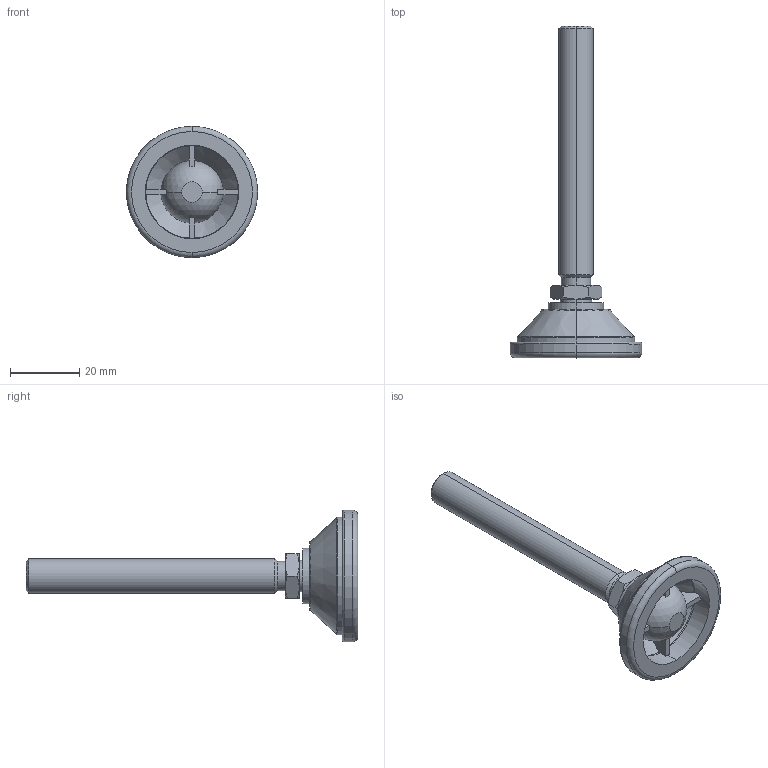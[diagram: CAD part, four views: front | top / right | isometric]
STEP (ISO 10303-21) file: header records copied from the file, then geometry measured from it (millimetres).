
FILE_DESCRIPTION (( 'STEP AP203' ), '1' );
FILE_NAME ('3472.W104.step', '2009-10-21T16:59:17', ( 'Wixroyd' ), ( 'Wixroyd' ), 'SwSTEP 2.0', 'SolidWorks 2009', '' );
FILE_SCHEMA (( 'CONFIG_CONTROL_DESIGN' ));
Length unit declared in the file: millimetre
Products named in the file (3): Part1_3472W104; Part2_3472W104; 3472.W104
Assembly tree (2 placements, depth 2):
  3472.W104
    Part1_3472W104
    Part2_3472W104
Bounding box: 38 x 96 x 38 mm (x, y, z)
Volume: 14543.2 mm3; surface area: 8276.7 mm2
Topology: 2 solids, 2 shells, 82 faces, 200 edges, 124 vertices
Faces by surface type: plane 26, cone 22, cylinder 16, torus 12, sphere 6
Entity records: 2787 total; most frequent: CARTESIAN_POINT 597, DIRECTION 432, ORIENTED_EDGE 382, AXIS2_PLACEMENT_3D 194, EDGE_CURVE 191, VERTEX_POINT 119, CIRCLE 107, EDGE_LOOP 88
